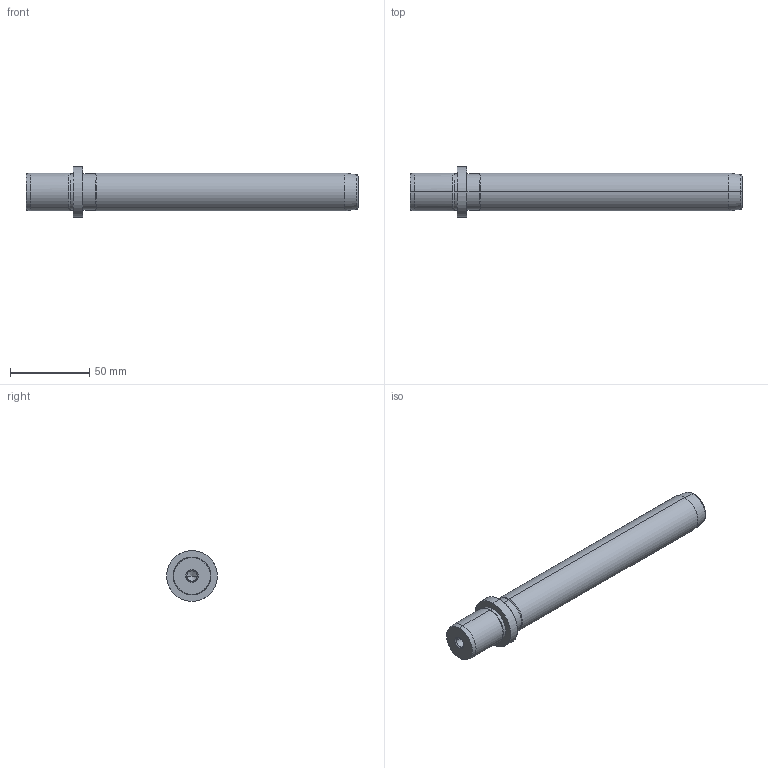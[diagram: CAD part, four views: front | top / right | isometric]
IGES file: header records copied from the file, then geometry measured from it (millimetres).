
Start section: START RECORD GO HERE.
Global section: file name: 718-24x180.igs; native system: DASSAULT SYSTEMES CATIA V5 R20 - www.3ds.com; preprocessor: CATIA Version 5 Release 20 ; author: Utente; organization: NB04-ASUS; date: 20210102.161754; units: millimetre
Bounding box: 210 x 32 x 32 mm (x, y, z)
Surface area: 18490.3 mm2 (no closed solid volume)
Topology: 0 solids, 0 shells, 36 faces, 196 edges, 192 vertices
Faces by surface type: revolution 32, plane 4
